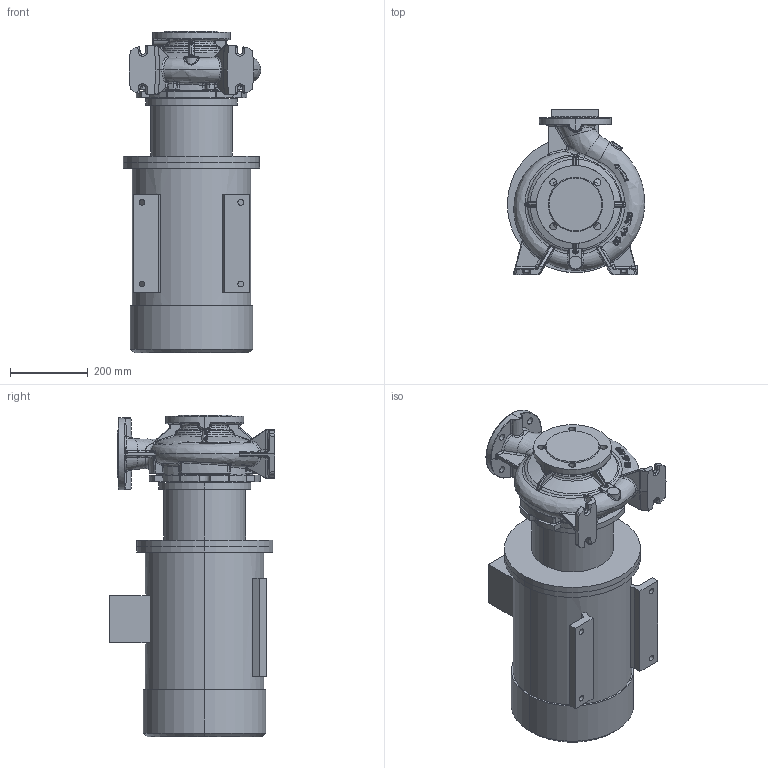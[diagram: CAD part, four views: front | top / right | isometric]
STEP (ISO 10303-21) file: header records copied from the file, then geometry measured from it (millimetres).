
FILE_DESCRIPTION (( 'STEP AP203' ), '1' );
FILE_NAME ('KRM 80-65-200-2-15.STEP', '2026-05-07T06:41:40', ( '' ), ( '' ), 'SwSTEP 2.0', 'SolidWorks 2016', '' );
FILE_SCHEMA (( 'CONFIG_CONTROL_DESIGN' ));
Length unit declared in the file: millimetre
Products named in the file (1): KRM 80-65-200-2-15
Bounding box: 353.01 x 425 x 827.3 mm (x, y, z)
Volume: 56614616.4 mm3; surface area: 1798891.8 mm2
Topology: 14 solids, 14 shells, 1176 faces, 2804 edges, 1664 vertices
Faces by surface type: bspline 552, cylinder 228, plane 216, torus 89, cone 76, sphere 15
Entity records: 72076 total; most frequent: CARTESIAN_POINT 49072, ORIENTED_EDGE 5572, DIRECTION 3717, EDGE_CURVE 2786, VERTEX_POINT 1664, AXIS2_PLACEMENT_3D 1535, EDGE_LOOP 1238, ADVANCED_FACE 1176
